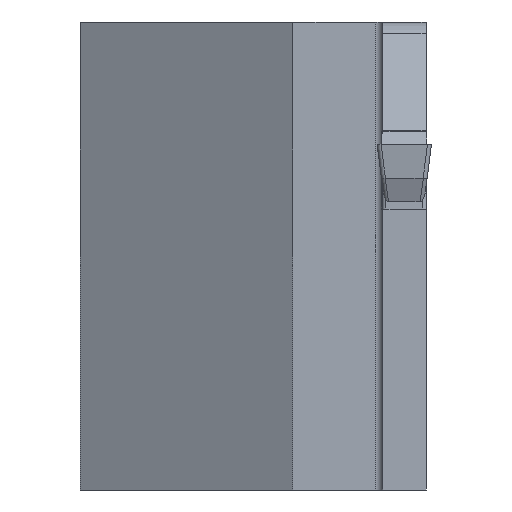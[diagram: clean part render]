
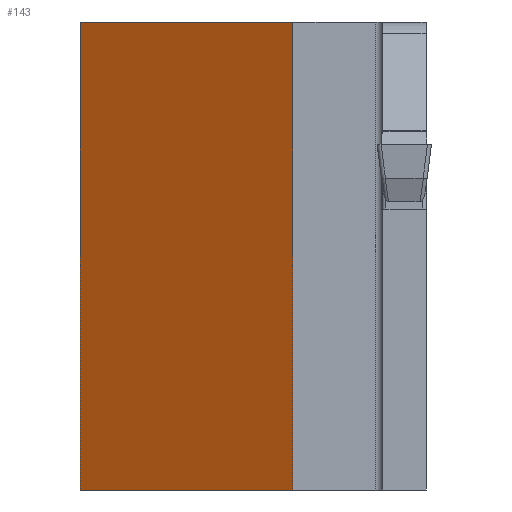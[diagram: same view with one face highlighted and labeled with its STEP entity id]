
A CAD part, left-side view. The second image highlights one B-rep face of the part: STEP entity #143.
In plain terms, the highlighted planar face has unit normal (-0.866, 0.5, 0).
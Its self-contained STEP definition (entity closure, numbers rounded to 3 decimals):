
#143=ADVANCED_FACE('',(#238),#198,.T.);
#198=PLANE('',#1114);
#238=FACE_OUTER_BOUND('',#293,.T.);
#293=EDGE_LOOP('',(#387,#388,#389,#390));
#387=ORIENTED_EDGE('',*,*,#742,.F.);
#388=ORIENTED_EDGE('',*,*,#765,.F.);
#389=ORIENTED_EDGE('',*,*,#768,.T.);
#390=ORIENTED_EDGE('',*,*,#769,.T.);
#648=VERTEX_POINT('',#1484);
#649=VERTEX_POINT('',#1486);
#669=VERTEX_POINT('',#1532);
#671=VERTEX_POINT('',#1539);
#742=EDGE_CURVE('',#648,#649,#887,.T.);
#765=EDGE_CURVE('',#669,#648,#907,.T.);
#768=EDGE_CURVE('',#669,#671,#909,.T.);
#769=EDGE_CURVE('',#671,#649,#910,.T.);
#887=LINE('',#1485,#998);
#907=LINE('',#1533,#1018);
#909=LINE('',#1538,#1020);
#910=LINE('',#1540,#1021);
#998=VECTOR('',#1197,1.);
#1018=VECTOR('',#1231,1.);
#1020=VECTOR('',#1237,1.);
#1021=VECTOR('',#1238,1.);
#1114=AXIS2_PLACEMENT_3D('',#1541,#1239,#1240);
#1197=DIRECTION('',(-0.5,-0.866,0.));
#1231=DIRECTION('',(0.,0.,1.));
#1237=DIRECTION('',(-0.5,-0.866,0.));
#1238=DIRECTION('',(0.,0.,1.));
#1239=DIRECTION('',(-0.866,0.5,0.));
#1240=DIRECTION('',(0.5,0.866,0.));
#1484=CARTESIAN_POINT('',(26.787,23.8,9.));
#1485=CARTESIAN_POINT('',(26.787,23.8,9.));
#1486=CARTESIAN_POINT('',(17.78,8.2,9.));
#1532=CARTESIAN_POINT('',(26.787,23.8,-25.4));
#1533=CARTESIAN_POINT('',(26.787,23.8,-25.4));
#1538=CARTESIAN_POINT('',(26.787,23.8,-25.4));
#1539=CARTESIAN_POINT('',(17.78,8.2,-25.4));
#1540=CARTESIAN_POINT('',(17.78,8.2,-25.4));
#1541=CARTESIAN_POINT('',(26.787,23.8,-25.4));
